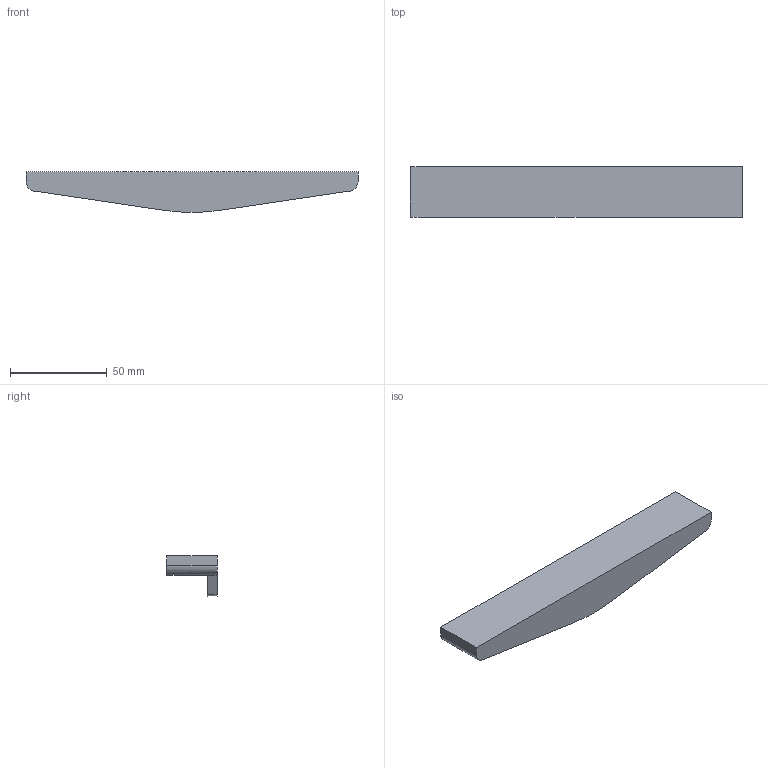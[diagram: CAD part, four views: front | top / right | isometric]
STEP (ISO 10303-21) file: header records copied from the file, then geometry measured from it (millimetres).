
FILE_DESCRIPTION( ( '' ), '1' );
FILE_NAME( 'C:/Documents and Settings/Sachin/Desktop/Sheet 10_1/stp/9080864.stp', '2013-10-22T10:44:19', ( '' ), ( '' ), ' ', ' ', ' ' );
FILE_SCHEMA( ( 'CONFIG_CONTROL_DESIGN' ) );
Length unit declared in the file: millimetre
Products named in the file (1): 1
Bounding box: 172 x 26 x 20.88 mm (x, y, z)
Volume: 33148.8 mm3; surface area: 15137.4 mm2
Topology: 1 solids, 1 shells, 22 faces, 54 edges, 36 vertices
Faces by surface type: plane 15, cylinder 7
Entity records: 698 total; most frequent: DIRECTION 116, CARTESIAN_POINT 113, ORIENTED_EDGE 108, EDGE_CURVE 54, AXIS2_PLACEMENT_3D 39, LINE 38, VECTOR 38, VERTEX_POINT 36
